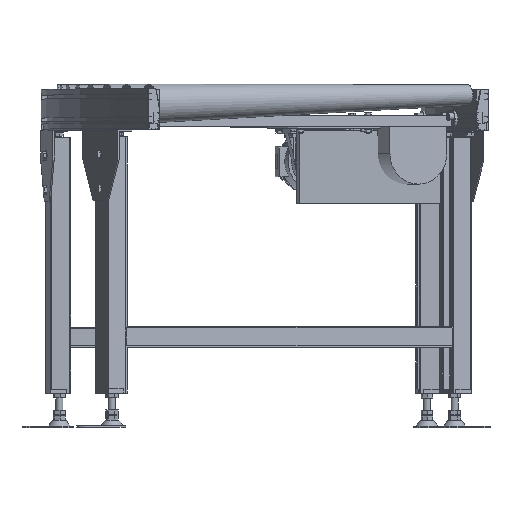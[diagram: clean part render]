
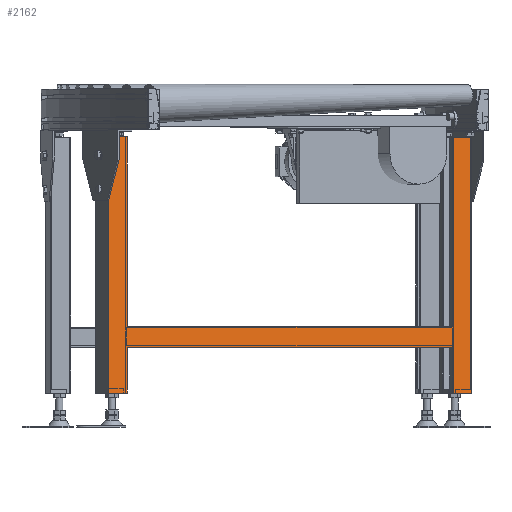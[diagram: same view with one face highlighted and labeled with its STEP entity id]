
A CAD part, top view. The second image highlights one B-rep face of the part: STEP entity #2162.
In plain terms, the highlighted planar face has unit normal (0.383, 0, 0.924).
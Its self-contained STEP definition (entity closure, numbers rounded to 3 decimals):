
#2162=ADVANCED_FACE('',(#14003),#14002,.F.);
#14002=PLANE('',#24688);
#14003=FACE_OUTER_BOUND('',#24689,.T.);
#24685=CARTESIAN_POINT('',(519.814,-685.,363.753));
#24686=DIRECTION('',(-0.383,0.,-0.924));
#24687=DIRECTION('',(-0.924,0.,0.383));
#24688=AXIS2_PLACEMENT_3D('',#24685,#24686,#24687);
#24689=EDGE_LOOP('',(#33096,#33097,#33098,#33099,#33100,#33101,#33102,#33103,#33104,#33105,#33106,#33107,#33108,#33109));
#33096=ORIENTED_EDGE('',*,*,#38278,.T.);
#33097=ORIENTED_EDGE('',*,*,#38310,.F.);
#33098=ORIENTED_EDGE('',*,*,#38222,.F.);
#33099=ORIENTED_EDGE('',*,*,#38265,.T.);
#33100=ORIENTED_EDGE('',*,*,#38239,.T.);
#33101=ORIENTED_EDGE('',*,*,#38264,.F.);
#33102=ORIENTED_EDGE('',*,*,#38175,.F.);
#33103=ORIENTED_EDGE('',*,*,#38254,.F.);
#33104=ORIENTED_EDGE('',*,*,#38268,.T.);
#33105=ORIENTED_EDGE('',*,*,#38226,.T.);
#33106=ORIENTED_EDGE('',*,*,#38311,.F.);
#33107=ORIENTED_EDGE('',*,*,#38285,.F.);
#33108=ORIENTED_EDGE('',*,*,#37548,.T.);
#33109=ORIENTED_EDGE('',*,*,#38312,.T.);
#37548=EDGE_CURVE('',#53609,#53590,#53610,.T.);
#38175=EDGE_CURVE('',#57765,#57745,#57772,.T.);
#38222=EDGE_CURVE('',#58081,#58066,#58088,.T.);
#38226=EDGE_CURVE('',#58116,#58109,#58117,.T.);
#38239=EDGE_CURVE('',#58204,#58197,#58205,.T.);
#38254=EDGE_CURVE('',#58301,#57765,#58308,.T.);
#38264=EDGE_CURVE('',#57745,#58197,#58368,.T.);
#38265=EDGE_CURVE('',#58081,#58204,#58374,.T.);
#38268=EDGE_CURVE('',#58301,#58116,#58392,.T.);
#38278=EDGE_CURVE('',#58456,#58449,#58457,.T.);
#38285=EDGE_CURVE('',#53609,#58504,#58505,.T.);
#38310=EDGE_CURVE('',#58066,#58449,#58664,.T.);
#38311=EDGE_CURVE('',#58504,#58109,#58670,.T.);
#38312=EDGE_CURVE('',#53590,#58456,#58676,.T.);
#53590=VERTEX_POINT('',#73942);
#53609=VERTEX_POINT('',#73952);
#53610=LINE('',#73953,#73954);
#57745=VERTEX_POINT('',#76360);
#57765=VERTEX_POINT('',#76371);
#57772=LINE('',#76375,#76376);
#58066=VERTEX_POINT('',#76541);
#58081=VERTEX_POINT('',#76550);
#58088=LINE('',#76554,#76555);
#58109=VERTEX_POINT('',#76566);
#58116=VERTEX_POINT('',#76570);
#58117=LINE('',#76571,#76572);
#58197=VERTEX_POINT('',#76615);
#58204=VERTEX_POINT('',#76619);
#58205=LINE('',#76620,#76621);
#58301=VERTEX_POINT('',#76674);
#58308=LINE('',#76678,#76679);
#58368=LINE('',#76708,#76709);
#58374=LINE('',#76711,#76712);
#58392=LINE('',#76720,#76721);
#58449=VERTEX_POINT('',#76750);
#58456=VERTEX_POINT('',#76754);
#58457=LINE('',#76755,#76756);
#58504=VERTEX_POINT('',#76781);
#58505=LINE('',#76782,#76783);
#58664=LINE('',#76866,#76867);
#58670=LINE('',#76869,#76870);
#58676=LINE('',#76872,#76873);
#73942=CARTESIAN_POINT('',(-283.961,-255.,696.688));
#73952=CARTESIAN_POINT('',(-283.961,-115.,696.688));
#73953=CARTESIAN_POINT('',(-283.961,-115.,696.688));
#73954=VECTOR('',#73955,140.);
#73955=DIRECTION('',(0.,-1.,0.));
#76360=CARTESIAN_POINT('',(510.575,-255.,367.58));
#76371=CARTESIAN_POINT('',(510.575,-115.,367.58));
#76375=CARTESIAN_POINT('',(510.575,-115.,367.58));
#76376=VECTOR('',#76377,140.);
#76377=DIRECTION('',(0.,-1.,0.));
#76541=CARTESIAN_POINT('',(-242.386,-575.,679.467));
#76550=CARTESIAN_POINT('',(469.001,-575.,384.801));
#76554=CARTESIAN_POINT('',(469.001,-575.,384.801));
#76555=VECTOR('',#76556,770.);
#76556=DIRECTION('',(-0.924,0.,0.383));
#76566=CARTESIAN_POINT('',(-242.386,-530.,679.467));
#76570=CARTESIAN_POINT('',(469.001,-530.,384.801));
#76571=CARTESIAN_POINT('',(469.001,-530.,384.801));
#76572=VECTOR('',#76573,770.);
#76573=DIRECTION('',(-0.924,0.,0.383));
#76615=CARTESIAN_POINT('',(510.575,-675.,367.58));
#76619=CARTESIAN_POINT('',(469.001,-675.,384.801));
#76620=CARTESIAN_POINT('',(469.001,-675.,384.801));
#76621=VECTOR('',#76622,45.);
#76622=DIRECTION('',(0.924,0.,-0.383));
#76674=CARTESIAN_POINT('',(469.001,-115.,384.801));
#76678=CARTESIAN_POINT('',(469.001,-115.,384.801));
#76679=VECTOR('',#76680,45.);
#76680=DIRECTION('',(0.924,0.,-0.383));
#76708=CARTESIAN_POINT('',(510.575,-255.,367.58));
#76709=VECTOR('',#76710,420.);
#76710=DIRECTION('',(0.,-1.,0.));
#76711=CARTESIAN_POINT('',(469.001,-575.,384.801));
#76712=VECTOR('',#76713,100.);
#76713=DIRECTION('',(0.,-1.,0.));
#76720=CARTESIAN_POINT('',(469.001,-115.,384.801));
#76721=VECTOR('',#76722,415.);
#76722=DIRECTION('',(0.,-1.,0.));
#76750=CARTESIAN_POINT('',(-242.386,-675.,679.467));
#76754=CARTESIAN_POINT('',(-283.961,-675.,696.688));
#76755=CARTESIAN_POINT('',(-283.961,-675.,696.688));
#76756=VECTOR('',#76757,45.);
#76757=DIRECTION('',(0.924,0.,-0.383));
#76781=CARTESIAN_POINT('',(-242.386,-115.,679.467));
#76782=CARTESIAN_POINT('',(-283.961,-115.,696.688));
#76783=VECTOR('',#76784,45.);
#76784=DIRECTION('',(0.924,0.,-0.383));
#76866=CARTESIAN_POINT('',(-242.386,-575.,679.467));
#76867=VECTOR('',#76868,100.);
#76868=DIRECTION('',(0.,-1.,0.));
#76869=CARTESIAN_POINT('',(-242.386,-115.,679.467));
#76870=VECTOR('',#76871,415.);
#76871=DIRECTION('',(0.,-1.,0.));
#76872=CARTESIAN_POINT('',(-283.961,-255.,696.688));
#76873=VECTOR('',#76874,420.);
#76874=DIRECTION('',(0.,-1.,0.));
